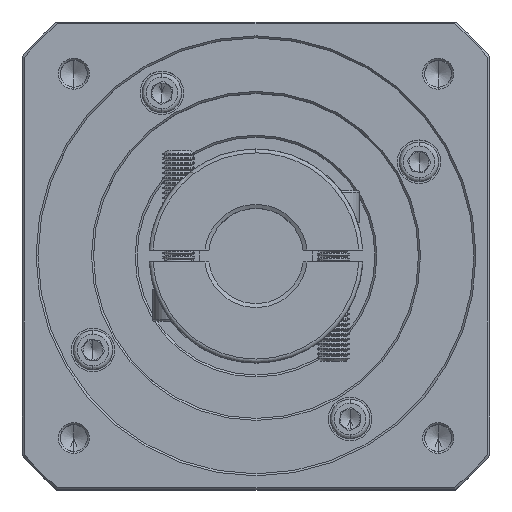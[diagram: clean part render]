
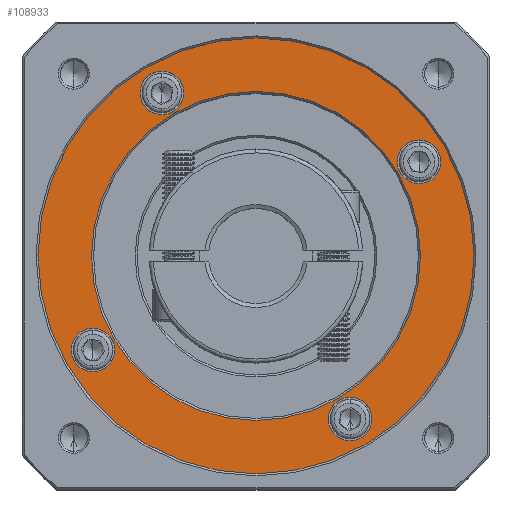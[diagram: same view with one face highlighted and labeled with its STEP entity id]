
A CAD part, top view. The second image highlights one B-rep face of the part: STEP entity #108933.
In plain terms, the highlighted planar face has unit normal (0, 0, 1).
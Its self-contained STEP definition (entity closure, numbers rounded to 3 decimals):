
#494 = DIRECTION ( 'NONE',  ( 0., 0., 1. ) ) ;
#3840 = CIRCLE ( 'NONE', #109024, 55. ) ;
#4169 = EDGE_CURVE ( 'NONE', #81011, #43381, #62497, .T. ) ;
#4845 = VERTEX_POINT ( 'NONE', #99649 ) ;
#5553 = CIRCLE ( 'NONE', #122219, 5.5 ) ;
#5924 = AXIS2_PLACEMENT_3D ( 'NONE', #19119, #82781, #50571 ) ;
#7155 = DIRECTION ( 'NONE',  ( 0., 0., -1. ) ) ;
#7217 = EDGE_LOOP ( 'NONE', ( #85347, #27254 ) ) ;
#9048 = DIRECTION ( 'NONE',  ( 0., 1., 0. ) ) ;
#9191 = CIRCLE ( 'NONE', #5924, 5.5 ) ;
#11463 = AXIS2_PLACEMENT_3D ( 'NONE', #39429, #7155, #38483 ) ;
#14771 = DIRECTION ( 'NONE',  ( 0., 0., -1. ) ) ;
#15895 = EDGE_CURVE ( 'NONE', #61205, #130352, #5553, .T. ) ;
#18261 = ORIENTED_EDGE ( 'NONE', *, *, #48765, .T. ) ;
#18436 = CARTESIAN_POINT ( 'NONE',  ( 7.692, 34.185, -18.676 ) ) ;
#19014 = PLANE ( 'NONE',  #103601 ) ;
#19119 = CARTESIAN_POINT ( 'NONE',  ( 89.965, 76.185, -18.676 ) ) ;
#19956 = DIRECTION ( 'NONE',  ( 0., 0., -1. ) ) ;
#20246 = AXIS2_PLACEMENT_3D ( 'NONE', #115422, #31469, #9048 ) ;
#21148 = CARTESIAN_POINT ( 'NONE',  ( 48.829, 52.435, -18.676 ) ) ;
#21281 = ORIENTED_EDGE ( 'NONE', *, *, #30073, .T. ) ;
#22036 = CARTESIAN_POINT ( 'NONE',  ( 89.965, 70.685, -18.676 ) ) ;
#24444 = EDGE_LOOP ( 'NONE', ( #84496, #115206 ) ) ;
#24981 = CARTESIAN_POINT ( 'NONE',  ( 7.692, 28.685, -18.676 ) ) ;
#26372 = DIRECTION ( 'NONE',  ( 0., 1., 0. ) ) ;
#26475 = EDGE_LOOP ( 'NONE', ( #129451, #28653 ) ) ;
#27254 = ORIENTED_EDGE ( 'NONE', *, *, #90950, .T. ) ;
#28381 = AXIS2_PLACEMENT_3D ( 'NONE', #52499, #43050, #55273 ) ;
#28653 = ORIENTED_EDGE ( 'NONE', *, *, #15895, .T. ) ;
#30073 = EDGE_CURVE ( 'NONE', #135337, #4845, #123310, .T. ) ;
#30183 = DIRECTION ( 'NONE',  ( 0., 1., 0. ) ) ;
#31112 = DIRECTION ( 'NONE',  ( 0., 0., 1. ) ) ;
#31469 = DIRECTION ( 'NONE',  ( 0., 0., -1. ) ) ;
#31961 = DIRECTION ( 'NONE',  ( 0., 1., 0. ) ) ;
#32667 = CARTESIAN_POINT ( 'NONE',  ( 48.829, 52.435, -18.676 ) ) ;
#36153 = FACE_BOUND ( 'NONE', #26475, .T. ) ;
#38423 = EDGE_CURVE ( 'NONE', #130352, #61205, #97759, .T. ) ;
#38483 = DIRECTION ( 'NONE',  ( 1., 0., 0. ) ) ;
#39429 = CARTESIAN_POINT ( 'NONE',  ( 48.829, 52.435, -18.676 ) ) ;
#42558 = DIRECTION ( 'NONE',  ( 0., 0., 1. ) ) ;
#42883 = FACE_BOUND ( 'NONE', #127664, .T. ) ;
#43050 = DIRECTION ( 'NONE',  ( 0., 0., -1. ) ) ;
#43381 = VERTEX_POINT ( 'NONE', #107383 ) ;
#43821 = EDGE_CURVE ( 'NONE', #62865, #82473, #105440, .T. ) ;
#44538 = FACE_BOUND ( 'NONE', #24444, .T. ) ;
#45827 = AXIS2_PLACEMENT_3D ( 'NONE', #62119, #19956, #72416 ) ;
#46054 = CARTESIAN_POINT ( 'NONE',  ( 72.579, 16.799, -18.676 ) ) ;
#46193 = AXIS2_PLACEMENT_3D ( 'NONE', #71809, #50328, #31961 ) ;
#46438 = ORIENTED_EDGE ( 'NONE', *, *, #102705, .T. ) ;
#46557 = CIRCLE ( 'NONE', #95401, 5.5 ) ;
#48765 = EDGE_CURVE ( 'NONE', #4845, #135337, #9191, .T. ) ;
#50328 = DIRECTION ( 'NONE',  ( 0., 0., -1. ) ) ;
#50571 = DIRECTION ( 'NONE',  ( 0., 1., 0. ) ) ;
#52190 = CARTESIAN_POINT ( 'NONE',  ( 7.692, 23.185, -18.676 ) ) ;
#52499 = CARTESIAN_POINT ( 'NONE',  ( 72.579, 11.299, -18.676 ) ) ;
#53301 = AXIS2_PLACEMENT_3D ( 'NONE', #24981, #110756, #26372 ) ;
#55273 = DIRECTION ( 'NONE',  ( 0., 1., 0. ) ) ;
#57925 = DIRECTION ( 'NONE',  ( 0., 1., 0. ) ) ;
#61142 = CARTESIAN_POINT ( 'NONE',  ( 25.079, 93.571, -18.676 ) ) ;
#61205 = VERTEX_POINT ( 'NONE', #75645 ) ;
#62119 = CARTESIAN_POINT ( 'NONE',  ( 48.829, 52.435, -18.676 ) ) ;
#62497 = CIRCLE ( 'NONE', #108089, 55. ) ;
#62865 = VERTEX_POINT ( 'NONE', #46054 ) ;
#71809 = CARTESIAN_POINT ( 'NONE',  ( 25.079, 93.571, -18.676 ) ) ;
#72416 = DIRECTION ( 'NONE',  ( 1., 0., 0. ) ) ;
#72986 = FACE_BOUND ( 'NONE', #78787, .T. ) ;
#75430 = ORIENTED_EDGE ( 'NONE', *, *, #106229, .T. ) ;
#75645 = CARTESIAN_POINT ( 'NONE',  ( 25.079, 88.071, -18.676 ) ) ;
#78787 = EDGE_LOOP ( 'NONE', ( #75430, #114572 ) ) ;
#78885 = CARTESIAN_POINT ( 'NONE',  ( 7.692, 28.685, -18.676 ) ) ;
#81011 = VERTEX_POINT ( 'NONE', #111255 ) ;
#82473 = VERTEX_POINT ( 'NONE', #111681 ) ;
#82643 = VERTEX_POINT ( 'NONE', #106453 ) ;
#82781 = DIRECTION ( 'NONE',  ( 0., 0., -1. ) ) ;
#84354 = VERTEX_POINT ( 'NONE', #92403 ) ;
#84496 = ORIENTED_EDGE ( 'NONE', *, *, #108237, .T. ) ;
#85347 = ORIENTED_EDGE ( 'NONE', *, *, #43821, .T. ) ;
#90950 = EDGE_CURVE ( 'NONE', #82473, #62865, #106762, .T. ) ;
#92403 = CARTESIAN_POINT ( 'NONE',  ( 90.329, 52.435, -18.676 ) ) ;
#92469 = DIRECTION ( 'NONE',  ( 0., 1., 0. ) ) ;
#95401 = AXIS2_PLACEMENT_3D ( 'NONE', #78885, #14771, #111256 ) ;
#97759 = CIRCLE ( 'NONE', #46193, 5.5 ) ;
#97980 = CIRCLE ( 'NONE', #45827, 41.5 ) ;
#99649 = CARTESIAN_POINT ( 'NONE',  ( 89.965, 81.685, -18.676 ) ) ;
#99849 = FACE_BOUND ( 'NONE', #7217, .T. ) ;
#102254 = VERTEX_POINT ( 'NONE', #52190 ) ;
#102705 = EDGE_CURVE ( 'NONE', #43381, #81011, #3840, .T. ) ;
#102760 = DIRECTION ( 'NONE',  ( 0., 0., -1. ) ) ;
#103601 = AXIS2_PLACEMENT_3D ( 'NONE', #115551, #31112, #30183 ) ;
#104825 = FACE_OUTER_BOUND ( 'NONE', #126759, .T. ) ;
#105440 = CIRCLE ( 'NONE', #28381, 5.5 ) ;
#106229 = EDGE_CURVE ( 'NONE', #84354, #82643, #97980, .T. ) ;
#106453 = CARTESIAN_POINT ( 'NONE',  ( 7.329, 52.435, -18.676 ) ) ;
#106762 = CIRCLE ( 'NONE', #20246, 5.5 ) ;
#106875 = AXIS2_PLACEMENT_3D ( 'NONE', #133269, #123475, #57925 ) ;
#107150 = ORIENTED_EDGE ( 'NONE', *, *, #4169, .T. ) ;
#107383 = CARTESIAN_POINT ( 'NONE',  ( 48.829, 107.435, -18.676 ) ) ;
#107422 = CIRCLE ( 'NONE', #53301, 5.5 ) ;
#108089 = AXIS2_PLACEMENT_3D ( 'NONE', #21148, #494, #127494 ) ;
#108237 = EDGE_CURVE ( 'NONE', #120625, #102254, #46557, .T. ) ;
#108933 = ADVANCED_FACE ( 'NONE', ( #104825, #72986, #36153, #42883, #44538, #99849 ), #19014, .T. ) ;
#109024 = AXIS2_PLACEMENT_3D ( 'NONE', #32667, #42558, #127836 ) ;
#110756 = DIRECTION ( 'NONE',  ( 0., 0., -1. ) ) ;
#111255 = CARTESIAN_POINT ( 'NONE',  ( 48.829, -2.565, -18.676 ) ) ;
#111256 = DIRECTION ( 'NONE',  ( 0., 1., 0. ) ) ;
#111681 = CARTESIAN_POINT ( 'NONE',  ( 72.579, 5.799, -18.676 ) ) ;
#114572 = ORIENTED_EDGE ( 'NONE', *, *, #135130, .T. ) ;
#115206 = ORIENTED_EDGE ( 'NONE', *, *, #133242, .T. ) ;
#115422 = CARTESIAN_POINT ( 'NONE',  ( 72.579, 11.299, -18.676 ) ) ;
#115551 = CARTESIAN_POINT ( 'NONE',  ( 48.829, 52.435, -18.676 ) ) ;
#120625 = VERTEX_POINT ( 'NONE', #18436 ) ;
#122219 = AXIS2_PLACEMENT_3D ( 'NONE', #61142, #102760, #92469 ) ;
#123310 = CIRCLE ( 'NONE', #106875, 5.5 ) ;
#123475 = DIRECTION ( 'NONE',  ( 0., 0., -1. ) ) ;
#124962 = CARTESIAN_POINT ( 'NONE',  ( 25.079, 99.071, -18.676 ) ) ;
#126759 = EDGE_LOOP ( 'NONE', ( #46438, #107150 ) ) ;
#127494 = DIRECTION ( 'NONE',  ( 0., 1., 0. ) ) ;
#127664 = EDGE_LOOP ( 'NONE', ( #18261, #21281 ) ) ;
#127836 = DIRECTION ( 'NONE',  ( 0., 1., 0. ) ) ;
#129451 = ORIENTED_EDGE ( 'NONE', *, *, #38423, .T. ) ;
#130352 = VERTEX_POINT ( 'NONE', #124962 ) ;
#133216 = CIRCLE ( 'NONE', #11463, 41.5 ) ;
#133242 = EDGE_CURVE ( 'NONE', #102254, #120625, #107422, .T. ) ;
#133269 = CARTESIAN_POINT ( 'NONE',  ( 89.965, 76.185, -18.676 ) ) ;
#135130 = EDGE_CURVE ( 'NONE', #82643, #84354, #133216, .T. ) ;
#135337 = VERTEX_POINT ( 'NONE', #22036 ) ;
